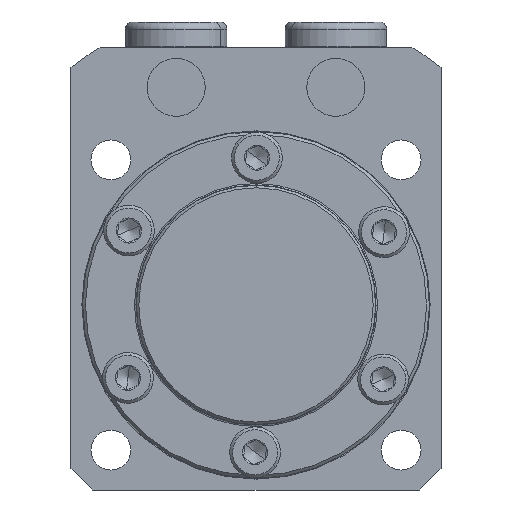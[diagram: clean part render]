
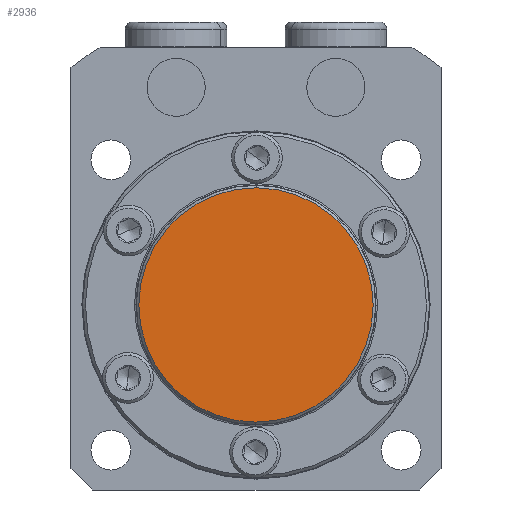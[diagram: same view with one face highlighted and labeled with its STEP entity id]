
A CAD part, front view. The second image highlights one B-rep face of the part: STEP entity #2936.
In plain terms, the highlighted planar face has unit normal (0, -1, 0).
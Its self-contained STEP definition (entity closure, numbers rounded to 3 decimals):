
#43 = CARTESIAN_POINT ( 'NONE',  ( 0., -8.5, 0. ) ) ;
#66 = DIRECTION ( 'NONE',  ( 0., 0., -1. ) ) ;
#215 = VERTEX_POINT ( 'NONE', #4823 ) ;
#315 = DIRECTION ( 'NONE',  ( 0., -1., 0. ) ) ;
#466 = DIRECTION ( 'NONE',  ( 0., 0., -1. ) ) ;
#533 = CIRCLE ( 'NONE', #4386, 16.15 ) ;
#802 = VERTEX_POINT ( 'NONE', #1568 ) ;
#1230 = ORIENTED_EDGE ( 'NONE', *, *, #2200, .T. ) ;
#1296 = PLANE ( 'NONE',  #5329 ) ;
#1568 = CARTESIAN_POINT ( 'NONE',  ( 0., -8.5, -16.15 ) ) ;
#2200 = EDGE_CURVE ( 'NONE', #802, #215, #533, .T. ) ;
#2630 = DIRECTION ( 'NONE',  ( 0., -1., 0. ) ) ;
#2883 = CARTESIAN_POINT ( 'NONE',  ( 0., -8.5, 0. ) ) ;
#2936 = ADVANCED_FACE ( 'NONE', ( #3519 ), #1296, .T. ) ;
#3039 = DIRECTION ( 'NONE',  ( 0., -1., 0. ) ) ;
#3069 = EDGE_LOOP ( 'NONE', ( #4530, #1230 ) ) ;
#3318 = DIRECTION ( 'NONE',  ( 0., 0., -1. ) ) ;
#3519 = FACE_OUTER_BOUND ( 'NONE', #3069, .T. ) ;
#4051 = AXIS2_PLACEMENT_3D ( 'NONE', #5216, #2630, #66 ) ;
#4241 = CIRCLE ( 'NONE', #4051, 16.15 ) ;
#4386 = AXIS2_PLACEMENT_3D ( 'NONE', #2883, #315, #3318 ) ;
#4530 = ORIENTED_EDGE ( 'NONE', *, *, #5256, .T. ) ;
#4823 = CARTESIAN_POINT ( 'NONE',  ( 0., -8.5, 16.15 ) ) ;
#5216 = CARTESIAN_POINT ( 'NONE',  ( 0., -8.5, 0. ) ) ;
#5256 = EDGE_CURVE ( 'NONE', #215, #802, #4241, .T. ) ;
#5329 = AXIS2_PLACEMENT_3D ( 'NONE', #43, #3039, #466 ) ;
